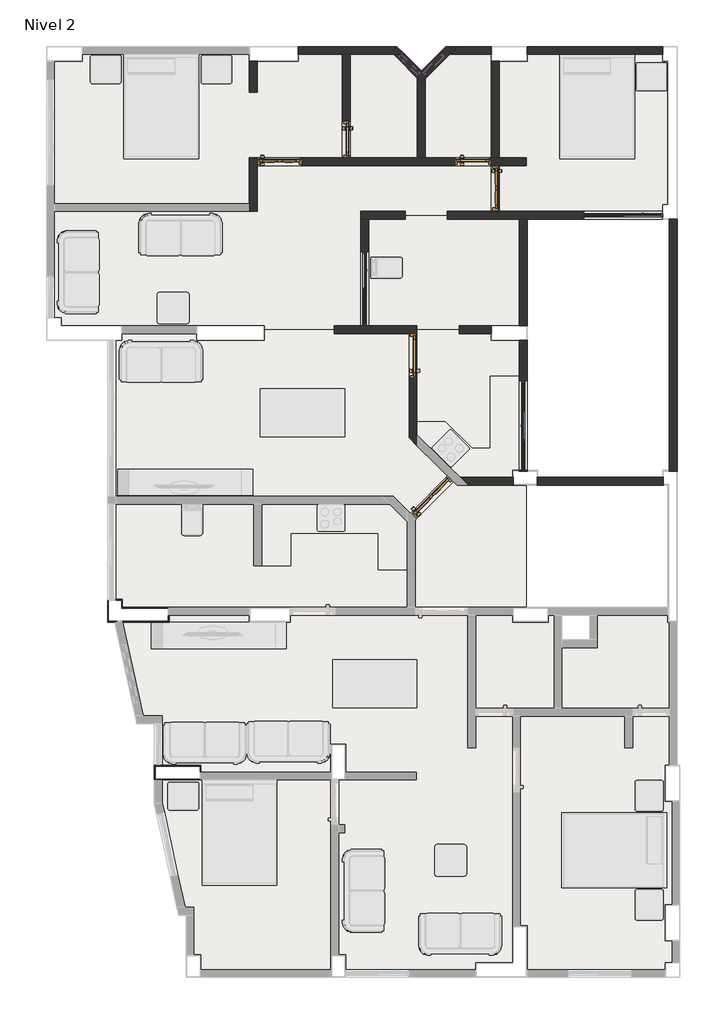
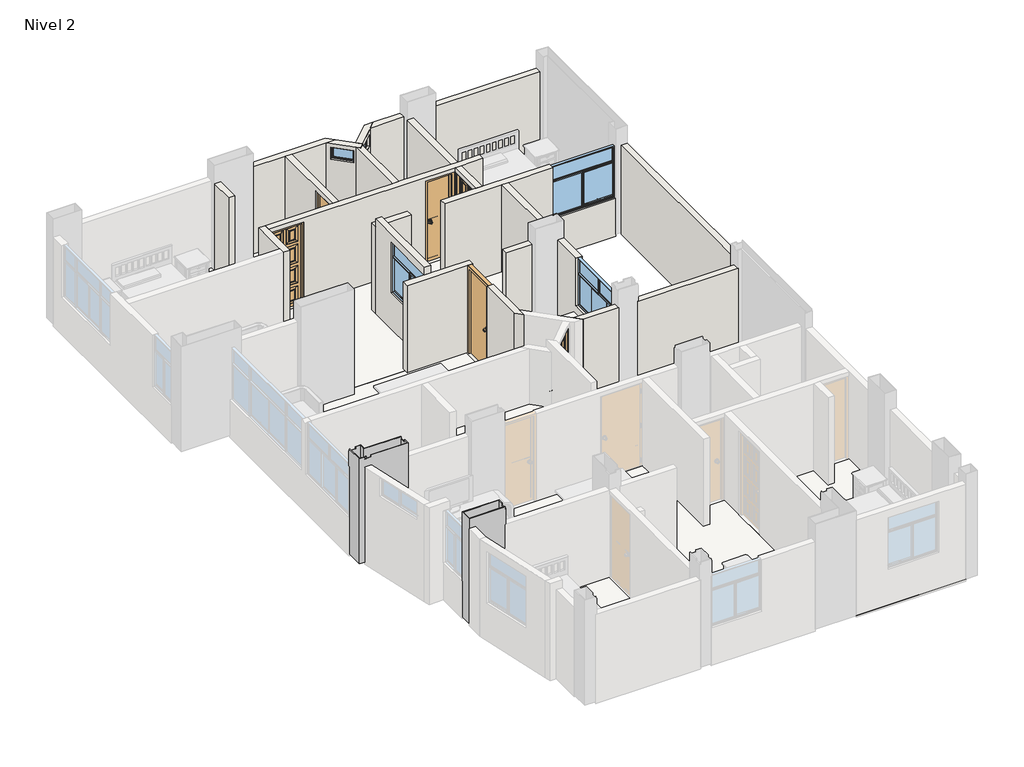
# One storey, part 2 of 3: 22 walls, 17 slabs, 6 doors, 5 windows, 2 columns.
"""IFC4 building model written with IfcOpenShell, lengths in millimetres."""

from ifc_helpers import new_model, si_unit, frame, origin, place, context, project, spatial, polyline, outline, extrude, faceted_brep, transform, mapped, element, save
from components import door_81789954, door_be1cc8a4, door_cacd1893, door_2d542328, door_b74d320c, door_1edce65c, puerta_interior_pi_0_85x2_10_m_9cadf999, puerta_interior_pi_0_85x2_10_m_c76ccc0d, puerta_interior_pi_0_85x2_10_m_f933acae, puerta_interior_pi_0_85x2_10_m_d21131e5, puerta_interior_pi_1_00x2_10_m_83b77251, puerta_interior_pi_1_00x2_10_m_a31ecc94, puerta_interior_pi_1_00x2_10_m_514a608a, puerta_interior_pi_1_00x2_10_m_a5189380, vb_1_40x1_30_m_7c4907bb, vb_1_50x1_30_m_f73e4b78, vb_1_70x1_20_m_a559326e, ventana_alta_1_cuerpo_va_0_50x0_30_m_a0596043

model = new_model("IFC4")

# Units and contexts
model_context = context("Model", 3, world=origin())
ifc_project = project(units=[si_unit("LENGTHUNIT", "METRE", prefix="MILLI")], contexts=[model_context])

# Site, building, storey
site = spatial("IfcSite", under=ifc_project)
building = spatial("IfcBuilding", under=site)
storey = spatial("IfcBuildingStorey", under=building, Name="Nivel 2", Elevation=2800.0)

# Columns
placement = place(None, origin())
element("IfcColumn", 1, ObjectType="Columna L Arquitectonica : ACO_L 40x114x25 cm", at=placement, inside=storey, context=model_context, shape_type="Brep", body=[
    faceted_brep([(-350.0, 7000.0, 2800.0), (-1240.0, 7000.0, 2800.0), (-1240.0, 7150.0, 2800.0), (-1355.0, 7150.0, 2800.0), (-1355.0, 7165.0, 2800.0), (-1225.0, 7165.0, 2800.0), (-1225.0, 7015.0, 2800.0), (-350.0, 7015.0, 2800.0), (-1240.0, 7150.0, 5450.0), (-1355.0, 7150.0, 5450.0), (-1355.0, 7150.0, 5400.0), (-1490.0, 7150.0, 5400.0), (-1490.0, 7150.0, 5000.0), (-1355.0, 7150.0, 5000.0), (-1490.0, 6750.0, 2800.0), (-1490.0, 7150.0, 2800.0), (-1490.0, 7150.0, 5450.0), (-1490.0, 6750.0, 5450.0), (-1331.7746495, 6750.0, 5450.0), (-1331.7746495, 6750.0, 5400.0), (-1220.1386409, 6750.0, 5400.0), (-1220.1386409, 6750.0, 5450.0), (-350.0, 6750.0, 5450.0), (-350.0, 6750.0, 2800.0), (-1220.1386409, 6750.0, 2800.0), (-1220.1386409, 6750.0, 5200.0), (-1331.7746495, 6750.0, 5200.0), (-1331.7746495, 6750.0, 2800.0), (-350.0, 6865.0, 5450.0), (-350.0, 6865.0, 5400.0), (-350.0, 7000.0, 5400.0), (-350.0, 7000.0, 5000.0), (-350.0, 6865.0, 5000.0), (-350.0, 6865.0, 2800.0), (-350.0, 7000.0, 5450.0), (-1240.0, 7000.0, 5450.0), (-1225.0, 7165.0, 5450.0), (-1225.0, 7015.0, 5450.0), (-350.0, 7015.0, 5450.0), (-350.0, 7015.0, 5400.0), (-335.0, 7015.0, 5400.0), (-335.0, 7015.0, 5000.0), (-350.0, 7015.0, 5000.0), (-335.0, 6735.0, 5450.0), (-335.0, 6735.0, 2800.0), (-335.0, 6865.0, 2800.0), (-335.0, 6865.0, 5000.0), (-335.0, 6865.0, 5400.0), (-335.0, 6865.0, 5450.0), (-1216.8940234, 6735.0, 5450.0), (-1216.8940234, 6735.0, 5400.0), (-1370.3630896, 6735.0, 5400.0), (-1370.3630896, 6735.0, 5450.0), (-1505.0, 6735.0, 5450.0), (-1505.0, 6735.0, 2800.0), (-1370.3630896, 6735.0, 2800.0), (-1370.3630896, 6735.0, 5200.0), (-1216.8940234, 6735.0, 5200.0), (-1216.8940234, 6735.0, 2800.0), (-1505.0, 7150.0, 5450.0), (-1505.0, 7150.0, 5400.0), (-1505.0, 7165.0, 5400.0), (-1505.0, 7165.0, 5000.0), (-1505.0, 7150.0, 5000.0), (-1505.0, 7150.0, 2800.0), (-1355.0, 7165.0, 3700.0), (-1355.0, 7165.0, 5000.0), (-1355.0, 7165.0, 5400.0), (-1355.0, 7165.0, 5450.0), (-1371.7378651, 6741.3556434, 5450.0), (-1371.7378651, 6741.3556434, 5200.0), (-1371.7378651, 6741.3556434, 2800.0), (-1371.7378651, 6741.3556434, 5400.0)], [[[0, 1, 2, 3, 4, 5, 6, 7]], [[2, 8, 9, 10, 11, 12, 13, 3]], [[14, 15, 12, 11, 16, 17]], [[14, 17, 18, 19, 20, 21, 22, 23, 24, 25, 26, 27]], [[23, 22, 28, 29, 30, 31, 32, 33]], [[1, 0, 31, 30, 34, 35]], [[2, 1, 35, 8]], [[6, 5, 36, 37]], [[6, 37, 38, 39, 40, 41, 42, 7]], [[43, 44, 45, 46, 41, 40, 47, 48]], [[44, 43, 49, 50, 51, 52, 53, 54, 55, 56, 57, 58]], [[54, 53, 59, 60, 61, 62, 63, 64]], [[36, 5, 4, 65, 66, 62, 61, 67, 68]], [[17, 16, 59, 53, 52, 69, 18]], [[4, 3, 13, 66, 65]], [[15, 64, 63, 12]], [[32, 46, 45, 33]], [[42, 31, 0, 7]], [[31, 42, 41, 46, 32]], [[23, 33, 45, 44, 58, 24]], [[57, 25, 24, 58]], [[26, 70, 71, 27]], [[25, 57, 56, 70, 26]], [[15, 14, 27, 71, 55, 54, 64]], [[71, 70, 56, 55]], [[67, 10, 9, 68]], [[60, 11, 10, 67, 61]], [[11, 60, 59, 16]], [[47, 29, 28, 48]], [[39, 30, 29, 47, 40]], [[30, 39, 38, 34]], [[35, 34, 38, 37, 36, 68, 9, 8]], [[20, 50, 49, 21]], [[51, 72, 69, 52]], [[50, 20, 19, 72, 51]], [[69, 72, 19, 18]], [[43, 48, 28, 22, 21, 49]], [[66, 13, 12, 63, 62]]]),
])
element("IfcColumn", 2, ObjectType="Columna Rectangular Arquitectonica : ACO_Rectangular 25x85 cm", at=placement, inside=storey, context=model_context, shape_type="Brep", body=[
    faceted_brep([(250.0, 4000.0, 2800.0), (-600.0, 4000.0, 2800.0), (-600.0, 3750.0, 2800.0), (250.0, 3750.0, 2800.0), (250.0, 3735.0, 2800.0), (-615.0, 3735.0, 2800.0), (-615.0, 4015.0, 2800.0), (265.0, 4015.0, 2800.0), (265.0, 3885.0, 2800.0), (250.0, 3885.0, 2800.0), (250.0, 4000.0, 5450.0), (250.0, 3885.0, 5000.0), (250.0, 3750.0, 5000.0), (250.0, 3750.0, 5400.0), (250.0, 3885.0, 5400.0), (250.0, 3885.0, 5450.0), (-600.0, 4000.0, 5450.0), (-600.0, 3750.0, 5450.0), (250.0, 3750.0, 5450.0), (-615.0, 3735.0, 5450.0), (-615.0, 3735.0, 5400.0), (-615.0, 3735.0, 5200.0), (250.0, 3735.0, 5000.0), (265.0, 3735.0, 5000.0), (265.0, 3735.0, 5400.0), (250.0, 3735.0, 5400.0), (250.0, 3735.0, 5450.0), (-615.0, 4015.0, 5450.0), (-615.0, 4015.0, 5400.0), (-615.0, 4015.0, 3700.0), (265.0, 4015.0, 5450.0), (265.0, 3885.0, 5450.0), (265.0, 3885.0, 5400.0), (265.0, 3885.0, 5000.0)], [[[0, 1, 2, 3, 4, 5, 6, 7, 8, 9]], [[10, 0, 9, 11, 12, 13, 14, 15]], [[1, 0, 10, 16]], [[2, 1, 16, 17]], [[3, 2, 17, 18, 13, 12]], [[19, 20, 21, 5, 4, 22, 23, 24, 25, 26]], [[6, 5, 21, 20, 19, 27, 28, 29]], [[7, 6, 29, 28, 27, 30]], [[7, 30, 31, 32, 24, 23, 33, 8]], [[16, 10, 15, 31, 30, 27, 19, 26, 18, 17]], [[33, 11, 9, 8]], [[12, 22, 4, 3]], [[22, 12, 11, 33, 23]], [[14, 32, 31, 15]], [[13, 25, 24, 32, 14]], [[25, 13, 18, 26]]]),
])

# Doors
door_shape = door_81789954(model_context)
door_2_shape = door_be1cc8a4(model_context)
door_3_shape = door_cacd1893(model_context)
element("IfcDoor", 3, ObjectType="Puerta contraplacada : Puerta contraplacada 0.7x2.10 m", at=placement, inside=storey, context=model_context, shape_type="MappedRepresentation", body=[
    mapped(door_shape, transform((5435.0, 15475.0, 2800.0), x_axis=(-1.0, 0.0, 0.0), y_axis=(0.0, -1.0, 0.0), z_axis=(0.0, 0.0, 1.0))),
    mapped(door_2_shape, transform((5435.0, 15475.0, 2800.0), x_axis=(-1.0, 0.0, 0.0), y_axis=(0.0, -1.0, 0.0), z_axis=(0.0, 0.0, 1.0))),
    mapped(door_3_shape, transform((5435.0, 15475.0, 2800.0), x_axis=(-1.0, 0.0, 0.0), y_axis=(0.0, -1.0, 0.0), z_axis=(0.0, 0.0, 1.0))),
])
element("IfcDoor", 4, ObjectType="Puerta contraplacada : Puerta contraplacada 0.7x2.10 m", at=placement, inside=storey, context=model_context, shape_type="MappedRepresentation", body=[
    mapped(door_shape, transform((3024.905684, 15900.0, 2800.0), x_axis=(0.0, 1.0, 0.0), y_axis=(-1.0, 0.0, 0.0), z_axis=(0.0, 0.0, 1.0))),
    mapped(door_2_shape, transform((3024.905684, 15900.0, 2800.0), x_axis=(0.0, 1.0, 0.0), y_axis=(-1.0, 0.0, 0.0), z_axis=(0.0, 0.0, 1.0))),
    mapped(door_3_shape, transform((3024.905684, 15900.0, 2800.0), x_axis=(0.0, 1.0, 0.0), y_axis=(-1.0, 0.0, 0.0), z_axis=(0.0, 0.0, 1.0))),
])
door_4_shape = door_2d542328(model_context)
door_5_shape = door_b74d320c(model_context)
door_6_shape = door_1edce65c(model_context)
element("IfcDoor", 5, ObjectType="Puerta contraplacada Vaiven : Puerta contraplacada 0.85x2.10 m", at=placement, inside=storey, context=model_context, shape_type="MappedRepresentation", body=[
    mapped(door_4_shape, transform((4295.0005808, 11790.0, 2800.0), x_axis=(0.0, -1.0, 0.0), y_axis=(1.0, 0.0, 0.0), z_axis=(0.0, 0.0, 1.0))),
    mapped(door_5_shape, transform((4295.0005808, 11790.0, 2800.0), x_axis=(0.0, -1.0, 0.0), y_axis=(1.0, 0.0, 0.0), z_axis=(0.0, 0.0, 1.0))),
    mapped(door_6_shape, transform((4295.0005808, 11790.0, 2800.0), x_axis=(0.0, -1.0, 0.0), y_axis=(1.0, 0.0, 0.0), z_axis=(0.0, 0.0, 1.0))),
])
puerta_interior_pi_0_85x2_10_m_shape = puerta_interior_pi_0_85x2_10_m_9cadf999(model_context)
puerta_interior_pi_0_85x2_10_m_2_shape = puerta_interior_pi_0_85x2_10_m_c76ccc0d(model_context)
puerta_interior_pi_0_85x2_10_m_3_shape = puerta_interior_pi_0_85x2_10_m_f933acae(model_context)
puerta_interior_pi_0_85x2_10_m_4_shape = puerta_interior_pi_0_85x2_10_m_d21131e5(model_context)
element("IfcDoor", 6, ObjectType="Puerta Interior : PI_0.85x2.10 m", at=placement, inside=storey, context=model_context, shape_type="MappedRepresentation", body=[
    mapped(puerta_interior_pi_0_85x2_10_m_shape, transform((1760.0, 15475.0, 2800.0), x_axis=(-1.0, 0.0, 0.0), y_axis=(0.0, -1.0, 0.0), z_axis=(0.0, 0.0, 1.0))),
    mapped(puerta_interior_pi_0_85x2_10_m_2_shape, transform((1760.0, 15475.0, 2800.0), x_axis=(-1.0, 0.0, 0.0), y_axis=(0.0, -1.0, 0.0), z_axis=(0.0, 0.0, 1.0))),
    mapped(puerta_interior_pi_0_85x2_10_m_3_shape, transform((1760.0, 15475.0, 2800.0), x_axis=(-1.0, 0.0, 0.0), y_axis=(0.0, -1.0, 0.0), z_axis=(0.0, 0.0, 1.0))),
    mapped(puerta_interior_pi_0_85x2_10_m_4_shape, transform((1760.0, 15475.0, 2800.0), x_axis=(-1.0, 0.0, 0.0), y_axis=(0.0, -1.0, 0.0), z_axis=(0.0, 0.0, 1.0))),
])
element("IfcDoor", 7, ObjectType="Puerta Interior : PI_0.85x2.10 m", at=placement, inside=storey, context=model_context, shape_type="MappedRepresentation", body=[
    mapped(puerta_interior_pi_0_85x2_10_m_shape, transform((5860.0, 14975.0, 2800.0), x_axis=(0.0, 1.0, 0.0), y_axis=(-1.0, 0.0, 0.0), z_axis=(0.0, 0.0, 1.0))),
    mapped(puerta_interior_pi_0_85x2_10_m_2_shape, transform((5860.0, 14975.0, 2800.0), x_axis=(0.0, 1.0, 0.0), y_axis=(-1.0, 0.0, 0.0), z_axis=(0.0, 0.0, 1.0))),
    mapped(puerta_interior_pi_0_85x2_10_m_3_shape, transform((5860.0, 14975.0, 2800.0), x_axis=(0.0, 1.0, 0.0), y_axis=(-1.0, 0.0, 0.0), z_axis=(0.0, 0.0, 1.0))),
    mapped(puerta_interior_pi_0_85x2_10_m_4_shape, transform((5860.0, 14975.0, 2800.0), x_axis=(0.0, 1.0, 0.0), y_axis=(-1.0, 0.0, 0.0), z_axis=(0.0, 0.0, 1.0))),
])
puerta_interior_pi_1_00x2_10_m_shape = puerta_interior_pi_1_00x2_10_m_83b77251(model_context)
puerta_interior_pi_1_00x2_10_m_2_shape = puerta_interior_pi_1_00x2_10_m_a31ecc94(model_context)
puerta_interior_pi_1_00x2_10_m_3_shape = puerta_interior_pi_1_00x2_10_m_514a608a(model_context)
puerta_interior_pi_1_00x2_10_m_4_shape = puerta_interior_pi_1_00x2_10_m_a5189380(model_context)
element("IfcDoor", 8, ObjectType="Puerta Interior : PI_1.00x2.10 m", at=placement, inside=storey, context=model_context, shape_type="MappedRepresentation", body=[
    mapped(puerta_interior_pi_1_00x2_10_m_shape, transform((4654.8981784, 9101.2074272, 2800.0), x_axis=(-0.702923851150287, -0.7112651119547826, 0.0), y_axis=(0.7112651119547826, -0.702923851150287, 0.0), z_axis=(0.0, 0.0, 1.0))),
    mapped(puerta_interior_pi_1_00x2_10_m_2_shape, transform((4654.8981784, 9101.2074272, 2800.0), x_axis=(-0.702923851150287, -0.7112651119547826, 0.0), y_axis=(0.7112651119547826, -0.702923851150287, 0.0), z_axis=(0.0, 0.0, 1.0))),
    mapped(puerta_interior_pi_1_00x2_10_m_3_shape, transform((4654.8981784, 9101.2074272, 2800.0), x_axis=(-0.702923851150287, -0.7112651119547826, 0.0), y_axis=(0.7112651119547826, -0.702923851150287, 0.0), z_axis=(0.0, 0.0, 1.0))),
    mapped(puerta_interior_pi_1_00x2_10_m_4_shape, transform((4654.8981784, 9101.2074272, 2800.0), x_axis=(-0.702923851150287, -0.7112651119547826, 0.0), y_axis=(0.7112651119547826, -0.702923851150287, 0.0), z_axis=(0.0, 0.0, 1.0))),
])

# Slabs
element("IfcSlab", 9, ObjectType="Mesa de Trabajo", at=placement, inside=storey, context=model_context, shape_type="SweptSolid", body=[
    extrude(outline(polyline([(6315.0, 9615.0), (6185.0, 9615.0), (6185.0, 9485.0), (5193.1628539, 9485.0), (4370.0005808, 10296.5278486), (4370.0005808, 10535.0), (4911.5224554, 10535.0), (5418.690678, 10035.0), (5765.0, 10035.0), (5765.0, 11400.0), (6315.0, 11400.0), (6315.0, 9615.0)])), frame((0.0, 0.0, 3500.0), z_axis=(0.0, 0.0, 1.0), x_axis=(1.0, 0.0, 0.0)), (0.0, 0.0, 1.0), 100.0),
])
element("IfcSlab", 10, ObjectType="Mesa de Trabajo", at=placement, inside=storey, context=model_context, shape_type="SweptSolid", body=[
    extrude(outline(polyline([(3853.1311996, 8975.0), (4185.0, 8643.1311996), (4185.0, 7725.0), (3635.0, 7725.0), (3635.0, 8415.3137403), (3625.3137403, 8425.0), (1975.0005808, 8425.0), (1975.0005808, 7800.0), (1425.0005808, 7800.0), (1425.0005808, 8975.0), (3853.1311996, 8975.0)])), frame((0.0, 0.0, 3500.0), z_axis=(0.0, 0.0, 1.0), x_axis=(1.0, 0.0, 0.0)), (0.0, 0.0, 1.0), 100.0),
])
element("IfcSlab", 11, ObjectType="Piso Acabado 5cm", at=placement, inside=storey, context=model_context, shape_type="SweptSolid", body=[
    extrude(outline(polyline([(2735.0, 135.0), (265.0, 135.0), (265.0, 415.0), (135.0, 415.0), (135.0, 1320.0), (-35.0804526, 1320.0), (-465.0, 3302.9622535), (-465.0, 3735.0), (2885.0, 3735.0), (2885.0, 2885.0), (2735.0, 2885.0), (2735.0, 135.0)])), frame((0.0, 0.0, 2750.0), z_axis=(0.0, 0.0, 1.0), x_axis=(1.0, 0.0, 0.0)), (0.0, 0.0, 1.0), 50.0),
])
element("IfcSlab", 12, ObjectType="Piso Acabado 5cm", at=placement, inside=storey, context=model_context, shape_type="SweptSolid", body=[
    extrude(outline(polyline([(2885.0, 2735.0), (3000.0, 2735.0), (3000.0, 2885.0), (2885.0, 2885.0), (2885.0, 3735.0), (4352.1220375, 3735.0), (4352.1220375, 3885.0), (3015.0, 3885.0), (3015.0, 4415.0), (2735.0, 4415.0), (2735.0, 3885.0), (265.0, 3885.0), (265.0, 4015.0), (-465.0, 4015.0), (-465.0, 4950.7253635), (-830.9414428, 4950.7253635), (-1216.8940234, 6735.0), (-335.0, 6735.0), (-335.0, 6865.0), (1185.0, 6865.0), (1185.0, 6735.0), (1965.0, 6735.0), (1965.0, 6865.0), (5335.0, 6865.0), (5335.0, 4350.0), (5485.0, 4350.0), (5485.0, 4975.0), (6185.0, 4975.0), (6185.0, 265.0), (5485.0, 265.0), (5485.0, 135.0), (3015.0, 135.0), (3015.0, 415.0), (2885.0, 415.0), (2885.0, 2735.0)])), frame((0.0, 0.0, 2750.0), z_axis=(0.0, 0.0, 1.0), x_axis=(1.0, 0.0, 0.0)), (0.0, 0.0, 1.0), 50.0),
])
element("IfcSlab", 13, ObjectType="Piso Acabado 5cm", at=placement, inside=storey, context=model_context, shape_type="SweptSolid", body=[
    extrude(outline(polyline([(6973.0216492, 5100.0), (6185.0, 5100.0), (6185.0, 4975.0), (5485.0, 4975.0), (5485.0, 6865.0), (6185.0, 6865.0), (6185.0, 6735.0), (6865.0, 6735.0), (6865.0, 6865.0), (6973.0216492, 6865.0), (6973.0216492, 5100.0)])), frame((0.0, 0.0, 2750.0), z_axis=(0.0, 0.0, 1.0), x_axis=(1.0, 0.0, 0.0)), (0.0, 0.0, 1.0), 50.0),
])
element("IfcSlab", 14, ObjectType="Piso Acabado 5cm", at=placement, inside=storey, context=model_context, shape_type="SweptSolid", body=[
    extrude(outline(polyline([(9085.0, -15.0), (6465.0, -15.0), (6465.0, 965.0), (6335.0, 965.0), (6335.0, 3499.9505997), (6185.0, 3499.9505997), (6185.0, 4349.9505997), (6335.0, 4349.9505997), (6335.0, 4950.0), (8315.0, 4950.0), (8315.0, 4349.9856618), (8465.0, 4349.9856618), (8465.0, 4950.0), (9165.0, 4950.0), (9165.0, 4015.0), (9085.0, 4015.0), (9085.0, 3335.0), (9215.0, 3335.0), (9215.0, 1365.0), (9085.0, 1365.0), (9085.0, 685.0), (9215.0, 685.0), (9215.0, 265.0), (9085.0, 265.0), (9085.0, -15.0)])), frame((0.0, 0.0, 2750.0), z_axis=(0.0, 0.0, 1.0), x_axis=(1.0, 0.0, 0.0)), (0.0, 0.0, 1.0), 50.0),
])
element("IfcSlab", 15, ObjectType="Piso Acabado 5cm", at=placement, inside=storey, context=model_context, shape_type="SweptSolid", body=[
    extrude(outline(polyline([(7123.0216492, 6250.0), (7798.1159652, 6250.0), (7798.1159652, 6865.0), (9135.0, 6865.0), (9135.0, 6735.0), (9165.0, 6735.0), (9165.0, 4950.0), (8465.0, 4950.0), (8465.0, 5100.0), (7123.0216492, 5100.0), (7123.0216492, 6250.0)])), frame((0.0, 0.0, 2750.0), z_axis=(0.0, 0.0, 1.0), x_axis=(1.0, 0.0, 0.0)), (0.0, 0.0, 1.0), 50.0),
])
element("IfcSlab", 16, ObjectType="Piso Acabado 5cm", at=placement, inside=storey, context=model_context, shape_type="SweptSolid", body=[
    extrude(outline(polyline([(5335.0, 7015.0), (5335.0, 6865.0), (4335.0, 6865.0), (4335.0, 8670.8159799), (4356.7811363, 8692.8555824), (4338.9995085, 8710.4286787), (5042.8092944, 9422.5902384), (5131.6552655, 9335.0), (6450.1679141, 9335.0), (6450.1679141, 7015.0), (5335.0, 7015.0)])), frame((0.0, 0.0, 2750.0), z_axis=(0.0, 0.0, 1.0), x_axis=(1.0, 0.0, 0.0)), (0.0, 0.0, 1.0), 50.0),
])
element("IfcSlab", 17, ObjectType="Piso Acabado 5cm", at=placement, inside=storey, context=model_context, shape_type="SweptSolid", body=[
    extrude(outline(polyline([(2815.0, 7015.0), (2815.0, 6865.0), (1965.0, 6865.0), (1965.0, 7015.0), (-1225.0, 7015.0), (-1225.0, 7165.0), (-1355.0, 7165.0), (-1355.0, 8975.0), (1275.0005808, 8975.0), (1275.0005808, 7800.0), (1425.0005808, 7800.0), (1425.0005808, 8975.0), (3853.1311996, 8975.0), (4185.0, 8643.1311996), (4185.0, 7015.0), (2815.0, 7015.0)])), frame((0.0, 0.0, 2750.0), z_axis=(0.0, 0.0, 1.0), x_axis=(1.0, 0.0, 0.0)), (0.0, 0.0, 1.0), 50.0),
])
element("IfcSlab", 18, ObjectType="Piso Acabado 5cm", at=placement, inside=storey, context=model_context, shape_type="SweptSolid", body=[
    extrude(outline(polyline([(-1355.0, 9125.0), (-1355.0, 12085.0), (-1235.0, 12085.0), (-1235.0, 12215.0), (185.0, 12215.0), (185.0, 12085.0), (1465.0, 12085.0), (1465.0, 12290.0), (2800.0005808, 12290.0), (2800.0005808, 12215.0), (4220.0005808, 12215.0), (4220.0005808, 10233.9775866), (5041.9233596, 9421.6937907), (4334.4440605, 8705.8191734), (3915.2632339, 9125.0), (-1355.0, 9125.0)])), frame((0.0, 0.0, 2750.0), z_axis=(0.0, 0.0, 1.0), x_axis=(1.0, 0.0, 0.0)), (0.0, 0.0, 1.0), 50.0),
])
element("IfcSlab", 19, ObjectType="Piso Acabado 5cm", at=placement, inside=storey, context=model_context, shape_type="SweptSolid", body=[
    extrude(outline(polyline([(4370.0005808, 11365.0), (4220.0005808, 11365.0), (4220.0005808, 12215.0), (4370.0005808, 12215.0), (4370.0005808, 12290.0), (5170.094316, 12290.0), (5170.094316, 12215.0), (5785.0, 12215.0), (5785.0, 12085.0), (6315.0, 12085.0), (6315.0, 9615.0), (6185.0, 9615.0), (6185.0, 9485.0), (5193.1628539, 9485.0), (4370.0005808, 10296.5278486), (4370.0005808, 11365.0)])), frame((0.0, 0.0, 2750.0), z_axis=(0.0, 0.0, 1.0), x_axis=(1.0, 0.0, 0.0)), (0.0, 0.0, 1.0), 50.0),
])
element("IfcSlab", 20, ObjectType="Piso Acabado 5cm", at=placement, inside=storey, context=model_context, shape_type="SweptSolid", body=[
    extrude(outline(polyline([(3450.0005808, 14385.0), (4150.0005808, 14385.0), (4150.0005808, 14460.0), (4950.0005808, 14460.0), (4950.0005808, 14385.0), (6315.0, 14385.0), (6315.0, 12365.0), (5170.094316, 12365.0), (5170.094316, 12290.0), (4370.0005808, 12290.0), (4370.0005808, 12365.0), (3450.0005808, 12365.0), (3450.0005808, 14385.0)])), frame((0.0, 0.0, 2750.0), z_axis=(0.0, 0.0, 1.0), x_axis=(1.0, 0.0, 0.0)), (0.0, 0.0, 1.0), 50.0),
])
element("IfcSlab", 21, ObjectType="Piso Acabado 5cm", at=placement, inside=storey, context=model_context, shape_type="SweptSolid", body=[
    extrude(outline(polyline([(-2385.0, 12365.0), (-2385.0, 12515.0), (-2515.0, 12515.0), (-2515.0, 14533.4801072), (1335.0, 14533.4801072), (1335.0, 15400.0), (5785.0, 15400.0), (5785.0, 14535.0), (4950.0005808, 14535.0), (4950.0005808, 14460.0), (4150.0005808, 14460.0), (4150.0005808, 14535.0), (3300.0005808, 14535.0), (3300.0005808, 12365.0), (2800.0005808, 12365.0), (2800.0005808, 12290.0), (1465.0, 12290.0), (1465.0, 12365.0), (-2385.0, 12365.0)])), frame((0.0, 0.0, 2750.0), z_axis=(0.0, 0.0, 1.0), x_axis=(1.0, 0.0, 0.0)), (0.0, 0.0, 1.0), 50.0),
])
element("IfcSlab", 22, ObjectType="Piso Acabado 5cm", at=placement, inside=storey, context=model_context, shape_type="SweptSolid", body=[
    extrude(outline(polyline([(-1985.0, 17385.0), (-1985.0, 17515.0), (1185.0, 17515.0), (1185.0, 16800.0), (1335.0, 16800.0), (1335.0, 17385.0), (2115.0, 17385.0), (2115.0, 17515.0), (2949.905684, 17515.0), (2949.905684, 15550.0), (2185.0, 15550.0), (2185.0, 15400.0), (1335.0, 15400.0), (1335.0, 15550.0), (1185.0, 15550.0), (1185.0, 14683.4801072), (-2515.0, 14683.4801072), (-2515.0, 17385.0), (-1985.0, 17385.0)])), frame((0.0, 0.0, 2750.0), z_axis=(0.0, 0.0, 1.0), x_axis=(1.0, 0.0, 0.0)), (0.0, 0.0, 1.0), 50.0),
])
element("IfcSlab", 23, ObjectType="Piso Acabado 5cm", at=placement, inside=storey, context=model_context, shape_type="SweptSolid", body=[
    extrude(outline(polyline([(2949.905684, 16250.0), (3099.905684, 16250.0), (3099.905684, 17515.0), (3927.8210981, 17515.0), (4379.9531324, 17062.8679656), (4379.9531324, 15550.0), (2949.905684, 15550.0), (2949.905684, 16250.0)])), frame((0.0, 0.0, 2750.0), z_axis=(0.0, 0.0, 1.0), x_axis=(1.0, 0.0, 0.0)), (0.0, 0.0, 1.0), 50.0),
])
element("IfcSlab", 24, ObjectType="Piso Acabado 5cm", at=placement, inside=storey, context=model_context, shape_type="SweptSolid", body=[
    extrude(outline(polyline([(5785.0, 17515.0), (5785.0, 15400.0), (5085.0, 15400.0), (5085.0, 15550.0), (4529.9531324, 15550.0), (4529.9531324, 17062.8679656), (4982.0851668, 17515.0), (5785.0, 17515.0)])), frame((0.0, 0.0, 2750.0), z_axis=(0.0, 0.0, 1.0), x_axis=(1.0, 0.0, 0.0)), (0.0, 0.0, 1.0), 50.0),
])
element("IfcSlab", 25, ObjectType="Piso Acabado 5cm", at=placement, inside=storey, context=model_context, shape_type="SweptSolid", body=[
    extrude(outline(polyline([(5785.0, 14535.0), (5785.0, 15400.0), (6450.0, 15400.0), (6450.0, 15550.0), (5935.0, 15550.0), (5935.0, 17385.0), (6465.0, 17385.0), (6465.0, 17515.0), (9035.0, 17515.0), (9035.0, 17385.0), (9135.0, 17385.0), (9135.0, 14665.0), (9035.0, 14665.0), (9035.0, 14535.0), (5785.0, 14535.0)])), frame((0.0, 0.0, 2750.0), z_axis=(0.0, 0.0, 1.0), x_axis=(1.0, 0.0, 0.0)), (0.0, 0.0, 1.0), 50.0),
])

# Walls
element("IfcWall", 26, ObjectType="AMS_Muro Interior-Exterior, e=15 cm", at=placement, inside=storey, context=model_context, shape_type="Brep", body=[
    faceted_brep([(2115.0, 17515.0, 2750.0), (2949.905684, 17515.0, 2750.0), (3099.905684, 17515.0, 2750.0), (3927.8210981, 17515.0, 2750.0), (4139.9531324, 17515.0, 2750.0), (4139.9531324, 17515.0, 4600.0), (4062.8463512, 17515.0, 4600.0), (4062.8463512, 17515.0, 4900.0), (4139.9531324, 17515.0, 4900.0), (4139.9531324, 17515.0, 5000.0), (3927.8210981, 17515.0, 5000.0), (3099.905684, 17515.0, 5000.0), (2949.905684, 17515.0, 5000.0), (2115.0, 17515.0, 5000.0), (3989.9531324, 17665.0, 2750.0), (2115.0, 17665.0, 2750.0), (2115.0, 17665.0, 2800.0), (2115.0, 17665.0, 5000.0), (3989.9531324, 17665.0, 5000.0), (4101.3997418, 17553.5533906, 4900.0), (4101.3997418, 17553.5533906, 4600.0)], [[[0, 1, 2, 3, 4, 5, 6, 7, 8, 9, 10, 11, 12, 13]], [[14, 15, 16, 17, 18]], [[4, 3, 2, 1, 0, 15, 14]], [[13, 12, 11, 10, 9, 18, 17]], [[0, 13, 17, 16, 15]], [[4, 14, 18, 9, 8, 19, 20, 5]], [[19, 7, 6, 20]], [[20, 6, 5]], [[7, 19, 8]]]),
])
element("IfcWall", 27, ObjectType="AMS_Muro Interior-Exterior, e=15 cm", at=placement, inside=storey, context=model_context, shape_type="Brep", body=[
    faceted_brep([(3927.8210981, 17515.0, 2750.0), (4379.9531324, 17062.8679656, 2750.0), (4454.9531324, 16987.8679656, 2750.0), (4454.9531324, 16987.8679656, 5000.0), (4379.9531324, 17062.8679656, 5000.0), (3927.8210981, 17515.0, 5000.0), (4348.8871152, 17093.9339828, 4900.0), (4348.8871152, 17093.9339828, 4600.0), (3995.3337246, 17447.4873734, 4600.0), (3995.3337246, 17447.4873734, 4900.0), (4561.0191496, 17093.9339828, 2750.0), (4454.9531324, 17200.0, 2750.0), (4139.9531324, 17515.0, 2750.0), (4139.9531324, 17515.0, 4600.0), (4454.9531324, 17200.0, 4600.0), (4454.9531324, 17200.0, 4900.0), (4139.9531324, 17515.0, 4900.0), (4139.9531324, 17515.0, 5000.0), (4454.9531324, 17200.0, 5000.0), (4561.0191496, 17093.9339828, 5000.0), (4561.0191496, 17093.9339828, 4900.0), (4561.0191496, 17093.9339828, 4600.0), (4529.9531324, 17062.8679656, 2750.0), (4529.9531324, 17062.8679656, 5000.0), (4062.8463512, 17515.0, 4900.0), (4062.8463512, 17515.0, 4600.0)], [[[0, 1, 2, 3, 4, 5], [6, 7, 8, 9]], [[10, 11, 12, 13, 14, 15, 16, 17, 18, 19, 20, 21]], [[2, 1, 0, 12, 11, 10, 22]], [[5, 4, 3, 23, 19, 18, 17]], [[0, 5, 17, 16, 24, 25, 13, 12]], [[3, 2, 22, 10, 21, 20, 19, 23]], [[14, 7, 6, 15]], [[24, 9, 8, 25]], [[7, 14, 13, 25, 8]], [[9, 24, 16, 15, 6]]]),
])
element("IfcWall", 28, ObjectType="AMS_Muro Interior-Exterior, e=15 cm", at=placement, inside=storey, context=model_context, shape_type="Brep", body=[
    faceted_brep([(4561.0191496, 17093.9339828, 2750.0), (4982.0851668, 17515.0, 2750.0), (5132.0851668, 17665.0, 2750.0), (5132.0851668, 17665.0, 5000.0), (4982.0851668, 17515.0, 5000.0), (4561.0191496, 17093.9339828, 5000.0), (4561.0191496, 17093.9339828, 4900.0), (4914.5725402, 17447.4873734, 4900.0), (4914.5725402, 17447.4873734, 4600.0), (4561.0191496, 17093.9339828, 4600.0), (4919.9531324, 17665.0, 2750.0), (4454.9531324, 17200.0, 2750.0), (4454.9531324, 17200.0, 4600.0), (4808.506523, 17553.5533906, 4600.0), (4808.506523, 17553.5533906, 4900.0), (4454.9531324, 17200.0, 4900.0), (4454.9531324, 17200.0, 5000.0), (4919.9531324, 17665.0, 5000.0)], [[[0, 1, 2, 3, 4, 5, 6, 7, 8, 9]], [[10, 11, 12, 13, 14, 15, 16, 17]], [[2, 1, 0, 11, 10]], [[5, 4, 3, 17, 16]], [[5, 16, 15, 6]], [[11, 0, 9, 12]], [[3, 2, 10, 17]], [[13, 8, 7, 14]], [[14, 7, 6, 15]], [[8, 13, 12, 9]]]),
])
element("IfcWall", 29, ObjectType="AMS_Muro Interior-Exterior, e=15 cm", at=placement, inside=storey, context=model_context, shape_type="Brep", body=[
    faceted_brep([(4982.0851668, 17515.0, 2750.0), (5785.0, 17515.0, 2750.0), (5785.0, 17515.0, 5000.0), (4982.0851668, 17515.0, 5000.0), (5132.0851668, 17665.0, 2750.0), (5132.0851668, 17665.0, 5000.0), (5785.0, 17665.0, 5000.0), (5785.0, 17665.0, 2800.0), (5785.0, 17665.0, 2750.0)], [[[0, 1, 2, 3]], [[4, 5, 6, 7, 8]], [[1, 0, 4, 8]], [[2, 1, 8, 7, 6]], [[3, 2, 6, 5]], [[0, 3, 5, 4]]]),
])
element("IfcWall", 30, ObjectType="AMS_Muro Interior-Exterior, e=15 cm", at=placement, inside=storey, context=model_context, shape_type="Brep", body=[
    faceted_brep([(6465.0, 17515.0, 2750.0), (9035.0, 17515.0, 2750.0), (9035.0, 17515.0, 5000.0), (6465.0, 17515.0, 5000.0), (6465.0, 17665.0, 2750.0), (6465.0, 17665.0, 2800.0), (6465.0, 17665.0, 5000.0), (9035.0, 17665.0, 5000.0), (9035.0, 17665.0, 2800.0), (9035.0, 17665.0, 2750.0)], [[[0, 1, 2, 3]], [[4, 5, 6, 7, 8, 9]], [[1, 0, 4, 9]], [[2, 1, 9, 8, 7]], [[3, 2, 7, 6]], [[0, 3, 6, 5, 4]]]),
])
element("IfcWall", 31, ObjectType="AMS_Muro Interior-Interior, e=15 cm", at=placement, inside=storey, context=model_context, shape_type="SweptSolid", body=[
    extrude(outline(polyline([(4379.9531324, 15550.0), (4379.9531324, 17062.8679656), (4454.9531324, 16987.8679656), (4529.9531324, 17062.8679656), (4529.9531324, 15550.0), (4379.9531324, 15550.0)])), frame((0.0, 0.0, 2750.0), z_axis=(0.0, 0.0, 1.0), x_axis=(1.0, 0.0, 0.0)), (0.0, 0.0, 1.0), 2250.0),
])
element("IfcWall", 32, ObjectType="AMS_Muro Interior-Interior, e=15 cm", at=placement, inside=storey, context=model_context, shape_type="Brep", body=[
    faceted_brep([(1185.0, 17385.0, 2750.0), (1185.0, 16800.0, 2750.0), (1185.0, 16800.0, 5000.0), (1185.0, 17385.0, 5000.0), (1185.0, 17385.0, 2800.0), (1335.0, 17385.0, 2750.0), (1335.0, 17385.0, 5000.0), (1335.0, 16800.0, 5000.0), (1335.0, 16800.0, 2750.0)], [[[0, 1, 2, 3, 4]], [[5, 6, 7, 8]], [[1, 0, 5, 8]], [[2, 1, 8, 7]], [[3, 2, 7, 6]], [[0, 4, 3, 6, 5]]]),
])
element("IfcWall", 33, ObjectType="AMS_Muro Interior-Interior, e=15 cm", at=placement, inside=storey, context=model_context, shape_type="Brep", body=[
    faceted_brep([(1185.0, 15550.0, 2750.0), (1185.0, 14683.4801072, 2750.0), (1185.0, 14533.4801072, 2750.0), (1185.0, 14533.4801072, 5000.0), (1185.0, 14683.4801072, 5000.0), (1185.0, 15550.0, 5000.0), (1335.0, 15550.0, 2750.0), (1335.0, 15550.0, 2800.0), (1335.0, 15550.0, 4900.0), (1335.0, 15550.0, 5000.0), (1335.0, 15400.0, 5000.0), (1335.0, 14533.4801072, 5000.0), (1335.0, 14533.4801072, 2750.0), (1335.0, 15400.0, 2750.0)], [[[0, 1, 2, 3, 4, 5]], [[6, 7, 8, 9, 10, 11, 12, 13]], [[2, 1, 0, 6, 13, 12]], [[5, 4, 3, 11, 10, 9]], [[3, 2, 12, 11]], [[0, 5, 9, 8, 7, 6]]]),
])
element("IfcWall", 34, ObjectType="AMS_Muro Interior-Interior, e=15 cm", at=placement, inside=storey, context=model_context, shape_type="Brep", body=[
    faceted_brep([(1335.0, 15400.0, 5000.0), (1335.0, 15400.0, 4900.0), (2185.0, 15400.0, 4900.0), (2185.0, 15400.0, 2800.0), (1335.0, 15400.0, 2800.0), (1335.0, 15400.0, 2750.0), (5785.0, 15400.0, 2750.0), (5935.0, 15400.0, 2750.0), (6450.0, 15400.0, 2750.0), (6450.0, 15400.0, 5000.0), (5935.0, 15400.0, 5000.0), (5785.0, 15400.0, 5000.0), (5085.0, 15400.0, 2800.0), (5085.0, 15400.0, 4900.0), (5785.0, 15400.0, 4900.0), (5785.0, 15400.0, 2800.0), (2185.0, 15550.0, 4900.0), (1335.0, 15550.0, 4900.0), (1335.0, 15550.0, 5000.0), (2949.905684, 15550.0, 5000.0), (3099.905684, 15550.0, 5000.0), (4379.9531324, 15550.0, 5000.0), (4529.9531324, 15550.0, 5000.0), (5785.0, 15550.0, 5000.0), (5935.0, 15550.0, 5000.0), (6450.0, 15550.0, 5000.0), (6450.0, 15550.0, 2750.0), (5935.0, 15550.0, 2750.0), (5785.0, 15550.0, 2750.0), (4529.9531324, 15550.0, 2750.0), (4379.9531324, 15550.0, 2750.0), (3099.905684, 15550.0, 2750.0), (2949.905684, 15550.0, 2750.0), (1335.0, 15550.0, 2750.0), (1335.0, 15550.0, 2800.0), (2185.0, 15550.0, 2800.0), (5085.0, 15550.0, 2800.0), (5785.0, 15550.0, 2800.0), (5785.0, 15550.0, 4900.0), (5085.0, 15550.0, 4900.0)], [[[0, 1, 2, 3, 4, 5, 6, 7, 8, 9, 10, 11], [12, 13, 14, 15]], [[16, 17, 18, 19, 20, 21, 22, 23, 24, 25, 26, 27, 28, 29, 30, 31, 32, 33, 34, 35], [36, 37, 38, 39]], [[8, 7, 6, 5, 33, 32, 31, 30, 29, 28, 27, 26]], [[9, 8, 26, 25]], [[0, 11, 10, 9, 25, 24, 23, 22, 21, 20, 19, 18]], [[34, 33, 5, 4]], [[18, 17, 1, 0]], [[13, 12, 36, 39]], [[14, 13, 39, 38]], [[15, 14, 38, 37]], [[12, 15, 37, 36]], [[2, 1, 17, 16]], [[3, 2, 16, 35]], [[4, 3, 35, 34]]]),
])
element("IfcWall", 35, ObjectType="AMS_Muro Interior-Interior, e=15 cm", at=placement, inside=storey, context=model_context, shape_type="Brep", body=[
    faceted_brep([(5935.0, 17385.0, 2750.0), (5935.0, 17385.0, 5000.0), (5935.0, 15550.0, 5000.0), (5935.0, 15550.0, 2750.0), (5785.0, 17385.0, 5000.0), (5785.0, 17385.0, 2800.0), (5785.0, 17385.0, 2750.0), (5785.0, 15550.0, 2750.0), (5785.0, 15550.0, 2800.0), (5785.0, 15550.0, 4900.0), (5785.0, 15550.0, 5000.0)], [[[0, 1, 2, 3]], [[4, 5, 6, 7, 8, 9, 10]], [[6, 0, 3, 7]], [[1, 0, 6, 5, 4]], [[1, 4, 10, 2]], [[3, 2, 10, 9, 8, 7]]]),
    faceted_brep([(5935.0, 14535.0, 5000.0), (5935.0, 14535.0, 2750.0), (5935.0, 15400.0, 2750.0), (5935.0, 15400.0, 2800.0), (5935.0, 14550.0, 2800.0), (5935.0, 14550.0, 4900.0), (5935.0, 15400.0, 4900.0), (5935.0, 15400.0, 5000.0), (5785.0, 14535.0, 2750.0), (5785.0, 14535.0, 5000.0), (5785.0, 15400.0, 5000.0), (5785.0, 15400.0, 4900.0), (5785.0, 14550.0, 4900.0), (5785.0, 14550.0, 2800.0), (5785.0, 15400.0, 2800.0), (5785.0, 15400.0, 2750.0)], [[[0, 1, 2, 3, 4, 5, 6, 7]], [[8, 9, 10, 11, 12, 13, 14, 15]], [[1, 8, 15, 2]], [[9, 0, 7, 10]], [[3, 2, 15, 14]], [[7, 6, 11, 10]], [[1, 0, 9, 8]], [[12, 11, 6, 5]], [[13, 12, 5, 4]], [[14, 13, 4, 3]]]),
])
element("IfcWall", 36, ObjectType="AMS_Muro Interior-Interior, e=15 cm", at=placement, inside=storey, context=model_context, shape_type="SweptSolid", body=[
    extrude(outline(polyline([(15550.0, 2750.0), (15550.0, 2800.0), (16250.0, 2800.0), (16250.0, 4900.0), (15550.0, 4900.0), (15550.0, 5000.0), (17515.0, 5000.0), (17515.0, 2750.0), (15550.0, 2750.0)])), frame((2949.905684, 0.0, 0.0), z_axis=(1.0, 0.0, 0.0), x_axis=(0.0, 1.0, 0.0)), (0.0, 0.0, 1.0), 150.0),
])
element("IfcWall", 37, ObjectType="AMS_Muro Interior-Interior, e=15 cm", at=placement, inside=storey, context=model_context, shape_type="Brep", body=[
    faceted_brep([(9035.0, 14535.0, 2750.0), (5935.0, 14535.0, 2750.0), (5785.0, 14535.0, 2750.0), (4950.0005808, 14535.0, 2750.0), (4950.0005808, 14535.0, 5000.0), (5785.0, 14535.0, 5000.0), (5935.0, 14535.0, 5000.0), (7535.0, 14535.0, 5000.0), (7535.0, 14535.0, 3700.0), (9035.0, 14535.0, 3700.0), (4950.0005808, 14385.0, 2750.0), (6315.0, 14385.0, 2750.0), (6465.0, 14385.0, 2750.0), (9035.0, 14385.0, 2750.0), (9035.0, 14385.0, 2800.0), (9035.0, 14385.0, 3700.0), (7535.0, 14385.0, 3700.0), (7535.0, 14385.0, 5000.0), (6465.0, 14385.0, 5000.0), (6315.0, 14385.0, 5000.0), (4950.0005808, 14385.0, 5000.0)], [[[0, 1, 2, 3, 4, 5, 6, 7, 8, 9]], [[10, 11, 12, 13, 14, 15, 16, 17, 18, 19, 20]], [[3, 2, 1, 0, 13, 12, 11, 10]], [[4, 3, 10, 20]], [[4, 20, 19, 18, 17, 7, 6, 5]], [[13, 0, 9, 15, 14]], [[16, 8, 7, 17]], [[8, 16, 15, 9]]]),
])
element("IfcWall", 38, ObjectType="AMS_Muro Interior-Interior, e=15 cm", at=placement, inside=storey, context=model_context, shape_type="Brep", body=[
    faceted_brep([(4150.0005808, 14535.0, 2750.0), (3300.0005808, 14535.0, 2750.0), (3300.0005808, 14535.0, 5000.0), (4150.0005808, 14535.0, 5000.0), (4150.0005808, 14385.0, 2750.0), (4150.0005808, 14385.0, 5000.0), (3300.0005808, 14385.0, 5000.0), (3300.0005808, 14385.0, 2750.0), (3450.0005808, 14385.0, 2750.0)], [[[0, 1, 2, 3]], [[4, 5, 6, 7, 8]], [[1, 0, 4, 8, 7]], [[3, 2, 6, 5]], [[0, 3, 5, 4]], [[2, 1, 7, 6]]]),
])
element("IfcWall", 39, ObjectType="AMS_Muro Interior-Interior, e=15 cm", at=placement, inside=storey, context=model_context, shape_type="Brep", body=[
    faceted_brep([(3300.0005808, 14385.0, 2750.0), (3300.0005808, 12365.0, 2750.0), (3300.0005808, 12365.0, 3700.0), (3300.0005808, 13765.0, 3700.0), (3300.0005808, 13765.0, 5000.0), (3300.0005808, 12365.0, 5000.0), (3300.0005808, 12365.0, 5200.0), (3300.0005808, 14385.0, 5200.0), (3300.0005808, 14385.0, 5000.0), (3450.0005808, 12365.0, 2750.0), (3450.0005808, 14385.0, 2750.0), (3450.0005808, 14385.0, 5200.0), (3450.0005808, 12365.0, 5200.0), (3450.0005808, 12365.0, 5000.0), (3450.0005808, 13765.0, 5000.0), (3450.0005808, 13765.0, 3700.0), (3450.0005808, 12365.0, 3700.0)], [[[0, 1, 2, 3, 4, 5, 6, 7, 8]], [[9, 10, 11, 12, 13, 14, 15, 16]], [[1, 0, 10, 9]], [[7, 6, 12, 11]], [[0, 8, 7, 11, 10]], [[12, 6, 5, 13]], [[1, 9, 16, 2]], [[3, 15, 14, 4]], [[4, 14, 13, 5]], [[15, 3, 2, 16]]]),
])
element("IfcWall", 40, ObjectType="AMS_Muro Interior-Interior, e=15 cm", at=placement, inside=storey, context=model_context, shape_type="Brep", body=[
    faceted_brep([(2800.0005808, 12215.0, 2750.0), (4220.0005808, 12215.0, 2750.0), (4370.0005808, 12215.0, 2750.0), (4370.0005808, 12215.0, 2800.0), (4370.0005808, 12215.0, 5000.0), (2800.0005808, 12215.0, 5000.0), (2800.0005808, 12365.0, 2750.0), (2800.0005808, 12365.0, 5000.0), (4370.0005808, 12365.0, 5000.0), (4370.0005808, 12365.0, 2750.0), (3450.0005808, 12365.0, 2750.0), (3300.0005808, 12365.0, 2750.0)], [[[0, 1, 2, 3, 4, 5]], [[6, 7, 8, 9, 10, 11]], [[2, 1, 0, 6, 11, 10, 9]], [[5, 4, 8, 7]], [[0, 5, 7, 6]], [[4, 3, 2, 9, 8]]]),
])
element("IfcWall", 41, ObjectType="AMS_Muro Interior-Interior, e=15 cm", at=placement, inside=storey, context=model_context, shape_type="Brep", body=[
    faceted_brep([(5785.0, 12365.0, 2750.0), (5170.094316, 12365.0, 2750.0), (5170.094316, 12365.0, 5000.0), (5785.0, 12365.0, 5000.0), (5785.0, 12365.0, 2800.0), (5785.0, 12215.0, 2750.0), (5785.0, 12215.0, 5000.0), (5170.094316, 12215.0, 5000.0), (5170.094316, 12215.0, 2750.0)], [[[0, 1, 2, 3, 4]], [[5, 6, 7, 8]], [[1, 0, 5, 8]], [[2, 1, 8, 7]], [[3, 2, 7, 6]], [[0, 4, 3, 6, 5]]]),
])
element("IfcWall", 42, ObjectType="AMS_Muro Interior-Interior, e=15 cm", at=placement, inside=storey, context=model_context, shape_type="Brep", body=[
    faceted_brep([(6315.0, 14385.0, 2750.0), (6315.0, 12365.0, 2750.0), (6315.0, 12365.0, 5000.0), (6315.0, 14385.0, 5000.0), (6465.0, 14385.0, 2750.0), (6465.0, 14385.0, 5000.0), (6465.0, 12365.0, 5000.0), (6465.0, 12365.0, 2800.0), (6465.0, 12365.0, 2750.0)], [[[0, 1, 2, 3]], [[4, 5, 6, 7, 8]], [[1, 0, 4, 8]], [[2, 1, 8, 7, 6]], [[3, 2, 6, 5]], [[0, 3, 5, 4]]]),
])
element("IfcWall", 43, ObjectType="AMS_Muro Interior-Interior, e=15 cm", at=placement, inside=storey, context=model_context, shape_type="Brep", body=[
    faceted_brep([(6465.0, 9600.0, 2750.0), (6465.0, 9615.0, 2750.0), (6465.0, 12085.0, 2750.0), (6465.0, 12085.0, 2800.0), (6465.0, 12085.0, 5000.0), (6465.0, 11315.0, 5000.0), (6465.0, 11315.0, 3800.0), (6465.0, 9615.0, 3800.0), (6465.0, 9615.0, 5000.0), (6465.0, 9600.0, 5000.0), (6465.0, 9600.0, 2800.0), (6315.0, 12085.0, 2750.0), (6315.0, 9615.0, 2750.0), (6315.0, 9600.0, 2750.0), (6315.0, 9600.0, 2800.0), (6315.0, 9600.0, 5000.0), (6315.0, 9615.0, 5000.0), (6315.0, 9615.0, 3800.0), (6315.0, 11315.0, 3800.0), (6315.0, 11315.0, 5000.0), (6315.0, 12085.0, 5000.0)], [[[0, 1, 2, 3, 4, 5, 6, 7, 8, 9, 10]], [[11, 12, 13, 14, 15, 16, 17, 18, 19, 20]], [[2, 1, 0, 13, 12, 11]], [[4, 3, 2, 11, 20]], [[4, 20, 19, 5]], [[15, 9, 8, 16]], [[0, 10, 9, 15, 14, 13]], [[18, 6, 5, 19]], [[7, 17, 16, 8]], [[6, 18, 17, 7]]]),
])
element("IfcWall", 44, ObjectType="AMS_Muro Interior-Interior, e=15 cm", at=placement, inside=storey, context=model_context, shape_type="Brep", body=[
    faceted_brep([(4220.0005808, 12215.0, 2750.0), (4220.0005808, 10233.7695247, 2750.0), (4220.0005808, 10233.7695247, 5000.0), (4220.0005808, 11365.0, 5000.0), (4220.0005808, 11365.0, 2800.0), (4220.0005808, 12215.0, 2800.0), (4370.0005808, 10085.8895972, 2750.0), (4370.0005808, 10296.5278486, 2750.0), (4370.0005808, 12215.0, 2750.0), (4370.0005808, 12215.0, 2800.0), (4370.0005808, 11365.0, 2800.0), (4370.0005808, 11365.0, 5000.0), (4370.0005808, 10296.5278486, 5000.0), (4370.0005808, 10085.8895972, 5000.0)], [[[0, 1, 2, 3, 4, 5]], [[6, 7, 8, 9, 10, 11, 12, 13]], [[1, 0, 8, 7, 6]], [[2, 13, 12, 11, 3]], [[2, 1, 6, 13]], [[8, 0, 5, 9]], [[10, 4, 3, 11]], [[4, 10, 9, 5]]]),
])
element("IfcWall", 45, ObjectType="AMS_Muro Interior-Interior, e=15 cm", at=placement, inside=storey, context=model_context, shape_type="Brep", body=[
    faceted_brep([(6200.0, 9485.0, 2750.0), (6185.0, 9485.0, 2750.0), (5193.1628539, 9485.0, 2750.0), (5193.1628539, 9485.0, 5000.0), (6185.0, 9485.0, 5000.0), (6200.0, 9485.0, 5000.0), (6200.0, 9485.0, 2800.0), (6200.0, 9335.0, 2750.0), (6200.0, 9335.0, 2800.0), (6200.0, 9335.0, 5000.0), (6185.0, 9335.0, 5000.0), (5345.3133207, 9335.0, 5000.0), (5345.3133207, 9335.0, 2750.0), (6185.0, 9335.0, 2750.0), (6200.0, 9350.0, 2750.0), (6200.0, 9350.0, 5000.0)], [[[0, 1, 2, 3, 4, 5, 6]], [[7, 8, 9, 10, 11, 12, 13]], [[2, 1, 0, 14, 7, 13, 12]], [[5, 4, 3, 11, 10, 9, 15]], [[0, 6, 5, 15, 9, 8, 7, 14]], [[3, 2, 12, 11]]]),
])
element("IfcWall", 46, ObjectType="AMS_Muro Interior-Exterior, e=15 cm", at=placement, inside=storey, context=model_context, shape_type="Brep", body=[
    faceted_brep([(9165.0, 14385.0, 2750.0), (9165.0, 9615.0, 2750.0), (9165.0, 9600.0, 2750.0), (9165.0, 9600.0, 2800.0), (9165.0, 9600.0, 5000.0), (9165.0, 9615.0, 5000.0), (9165.0, 14385.0, 5000.0), (9315.0, 14385.0, 2750.0), (9315.0, 14385.0, 2800.0), (9315.0, 14385.0, 5000.0), (9315.0, 9615.0, 5000.0), (9315.0, 9600.0, 5000.0), (9315.0, 9600.0, 2800.0), (9315.0, 9600.0, 2750.0), (9315.0, 9615.0, 2750.0), (9300.0, 9600.0, 2750.0), (9300.0, 9600.0, 5000.0)], [[[0, 1, 2, 3, 4, 5, 6]], [[7, 8, 9, 10, 11, 12, 13, 14]], [[2, 1, 0, 7, 14, 13, 15]], [[4, 3, 2, 15, 13, 12, 11, 16]], [[6, 5, 4, 16, 11, 10, 9]], [[0, 6, 9, 8, 7]]]),
])
element("IfcWall", 47, ObjectType="AMS_Muro Interior-Interior, e=15 cm", at=placement, inside=storey, context=model_context, shape_type="Brep", body=[
    faceted_brep([(6650.0, 9335.0, 2750.0), (6665.0, 9335.0, 2750.0), (9035.0, 9335.0, 2750.0), (9050.0, 9335.0, 2750.0), (9050.0, 9335.0, 2800.0), (9050.0, 9335.0, 5000.0), (9035.0, 9335.0, 5000.0), (6665.0, 9335.0, 5000.0), (6650.0, 9335.0, 5000.0), (6650.0, 9335.0, 2800.0), (6650.0, 9485.0, 2750.0), (6650.0, 9485.0, 2800.0), (6650.0, 9485.0, 5000.0), (6665.0, 9485.0, 5000.0), (9035.0, 9485.0, 5000.0), (9050.0, 9485.0, 5000.0), (9050.0, 9485.0, 2800.0), (9050.0, 9485.0, 2750.0), (9035.0, 9485.0, 2750.0), (6665.0, 9485.0, 2750.0), (6650.0, 9350.0, 2750.0), (9050.0, 9350.0, 2750.0), (9050.0, 9350.0, 5000.0), (6650.0, 9350.0, 5000.0)], [[[0, 1, 2, 3, 4, 5, 6, 7, 8, 9]], [[10, 11, 12, 13, 14, 15, 16, 17, 18, 19]], [[3, 2, 1, 0, 20, 10, 19, 18, 17, 21]], [[5, 4, 3, 21, 17, 16, 15, 22]], [[8, 7, 6, 5, 22, 15, 14, 13, 12, 23]], [[0, 9, 8, 23, 12, 11, 10, 20]]]),
])

# Windows
vb_1_40x1_30_m_shape = vb_1_40x1_30_m_7c4907bb(model_context)
element("IfcWindow", 48, ObjectType="Ventana baja corrediza 2 cuerpos : VB 1.40X1.30 m", at=placement, inside=storey, context=model_context, shape_type="MappedRepresentation", body=[
    mapped(vb_1_40x1_30_m_shape, transform((3375.0005808, 13065.0, 2800.0), x_axis=(0.0, -1.0, 0.0), y_axis=(1.0, 0.0, 0.0), z_axis=(0.0, 0.0, 1.0))),
])
vb_1_50x1_30_m_shape = vb_1_50x1_30_m_f73e4b78(model_context)
element("IfcWindow", 49, ObjectType="Ventana baja corrediza 2 cuerpos : VB 1.50X1.30 m", at=placement, inside=storey, context=model_context, shape_type="MappedRepresentation", body=[
    mapped(vb_1_50x1_30_m_shape, transform((8285.0, 14460.0, 2800.0), x_axis=(-1.0, 0.0, 0.0), y_axis=(0.0, -1.0, 0.0), z_axis=(0.0, 0.0, 1.0))),
])
vb_1_70x1_20_m_shape = vb_1_70x1_20_m_a559326e(model_context)
element("IfcWindow", 50, ObjectType="Ventana baja corrediza 3 cuerpos : VB 1.70x1.20 m", at=placement, inside=storey, context=model_context, shape_type="MappedRepresentation", body=[
    mapped(vb_1_70x1_20_m_shape, transform((6390.0, 10465.0, 2900.0), x_axis=(0.0, -1.0, 0.0), y_axis=(1.0, 0.0, 0.0), z_axis=(0.0, 0.0, 1.0))),
])
ventana_alta_1_cuerpo_va_0_50x0_30_m_shape = ventana_alta_1_cuerpo_va_0_50x0_30_m_a0596043(model_context)
element("IfcWindow", 51, ObjectType="Ventana alta 1 cuerpo : VA 0.50x0.30 m", at=placement, inside=storey, context=model_context, shape_type="MappedRepresentation", body=[
    mapped(ventana_alta_1_cuerpo_va_0_50x0_30_m_shape, transform((4225.1434285, 17323.7436867, 3000.0), x_axis=(-0.7071067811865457, 0.7071067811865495, 0.0), y_axis=(-0.7071067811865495, -0.7071067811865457, 0.0), z_axis=(0.0, 0.0, 1.0))),
])
element("IfcWindow", 52, ObjectType="Ventana alta 1 cuerpo : VA 0.50x0.30 m", at=placement, inside=storey, context=model_context, shape_type="MappedRepresentation", body=[
    mapped(ventana_alta_1_cuerpo_va_0_50x0_30_m_shape, transform((4684.7628363, 17323.7436867, 3000.0), x_axis=(-0.7071067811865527, -0.7071067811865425, 0.0), y_axis=(0.7071067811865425, -0.7071067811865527, 0.0), z_axis=(0.0, 0.0, 1.0))),
])

save(model, "model.ifc")
